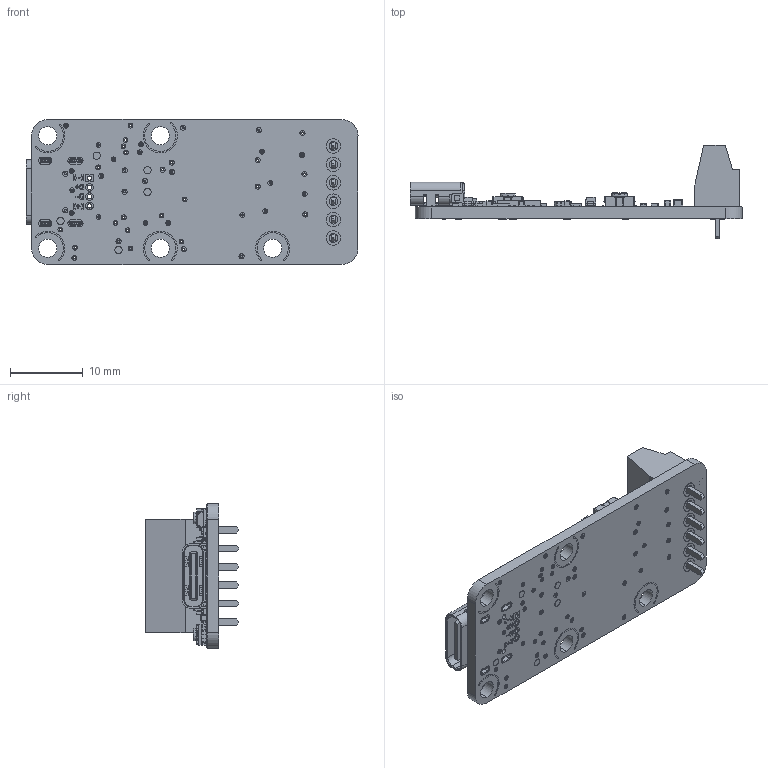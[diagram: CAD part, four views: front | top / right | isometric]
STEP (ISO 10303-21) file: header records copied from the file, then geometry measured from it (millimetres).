
FILE_DESCRIPTION (( 'STEP AP214' ), '1' );
FILE_NAME ('YBUTTN1C.STEP', '2025-11-25T12:40:40', ( '' ), ( '' ), 'SwSTEP 2.0', 'SolidWorks 2008', '' );
FILE_SCHEMA (( 'AUTOMOTIVE_DESIGN' ));
Length unit declared in the file: millimetre
Products named in the file (26): REG1; YBUTTN1C; C2; USB1; P2; C15; R18; C18; R23; C14; R12; C19; LED5; C6; R22; YLED; SWIN5; R10; R1; R5; R21; U1; R2; C16; sens1; PCB
Assembly tree (59 placements, depth 2):
  YBUTTN1C
    C14  x5
    SWIN5  x6
    C6  x4
    LED5  x5
    R2
    R21  x5
    R22  x5
    R10  x5
    YLED
    R18  x2
    PCB
    C18
    C15  x5
    U1
    R12  x2
    REG1
    R23
    P2
    R1
    sens1
    USB1
    R5
    C16
    C2
    C19
Bounding box: 45.75 x 12.9 x 20 mm (x, y, z)
Volume: 2358.2 mm3; surface area: 4258 mm2
Topology: 83 solids, 83 shells, 7322 faces, 19091 edges, 12251 vertices
Faces by surface type: plane 4652, cylinder 1937, bspline 495, sphere 184, torus 42, cone 12
Entity records: 210152 total; most frequent: CARTESIAN_POINT 44039, ORIENTED_EDGE 25230, DIRECTION 23827, EDGE_CURVE 12615, VECTOR 9291, LINE 9291, VERTEX_POINT 8280, AXIS2_PLACEMENT_3D 7268
